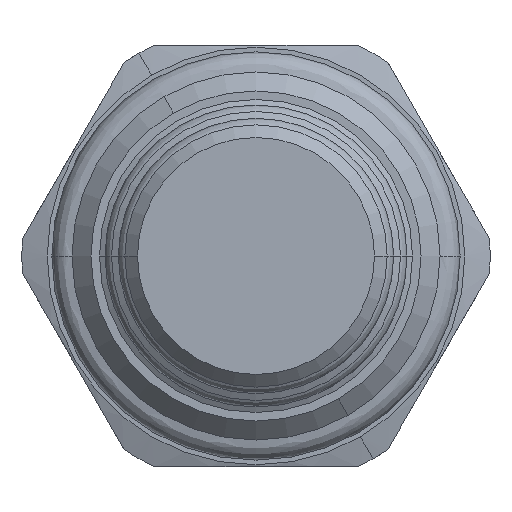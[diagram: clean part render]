
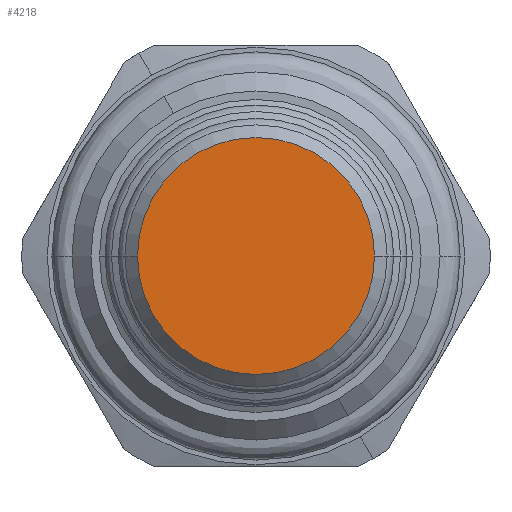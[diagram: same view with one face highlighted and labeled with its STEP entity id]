
A CAD part, front view. The second image highlights one B-rep face of the part: STEP entity #4218.
In plain terms, the highlighted planar face has unit normal (0, -1, 0).
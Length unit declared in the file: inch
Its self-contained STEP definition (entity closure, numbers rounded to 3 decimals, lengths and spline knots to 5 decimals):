
#1805=CARTESIAN_POINT('',(0.,-1.81277,0.));
#1806=DIRECTION('',(0.,-1.,0.));
#1807=DIRECTION('',(-1.,0.,0.));
#1808=AXIS2_PLACEMENT_3D('',#1805,#1806,#1807);
#1823=CARTESIAN_POINT('',(0.,-1.81277,0.));
#1824=DIRECTION('',(0.,1.,0.));
#1825=DIRECTION('',(-1.,0.,0.));
#1826=AXIS2_PLACEMENT_3D('',#1823,#1824,#1825);
#2451=CARTESIAN_POINT('',(-0.281,-1.81277,0.));
#2452=CARTESIAN_POINT('',(0.281,-1.81277,0.));
#2453=VERTEX_POINT('',#2451);
#2454=VERTEX_POINT('',#2452);
#4208=CARTESIAN_POINT('',(0.,-1.81277,0.));
#4209=DIRECTION('',(0.,-1.,0.));
#4210=DIRECTION('',(-1.,0.,0.));
#4211=AXIS2_PLACEMENT_3D('',#4208,#4209,#4210);
#4212=PLANE('',#4211);
#4213=ORIENTED_EDGE('',*,*,#4198,.F.);
#4215=ORIENTED_EDGE('',*,*,#4214,.T.);
#4216=EDGE_LOOP('',(#4213,#4215));
#4217=FACE_OUTER_BOUND('',#4216,.F.);
#4218=ADVANCED_FACE('',(#4217),#4212,.T.);
#1809=CIRCLE('',#1808,0.281);
#1827=CIRCLE('',#1826,0.281);
#4198=EDGE_CURVE('',#2453,#2454,#1809,.T.);
#4214=EDGE_CURVE('',#2453,#2454,#1827,.T.);
